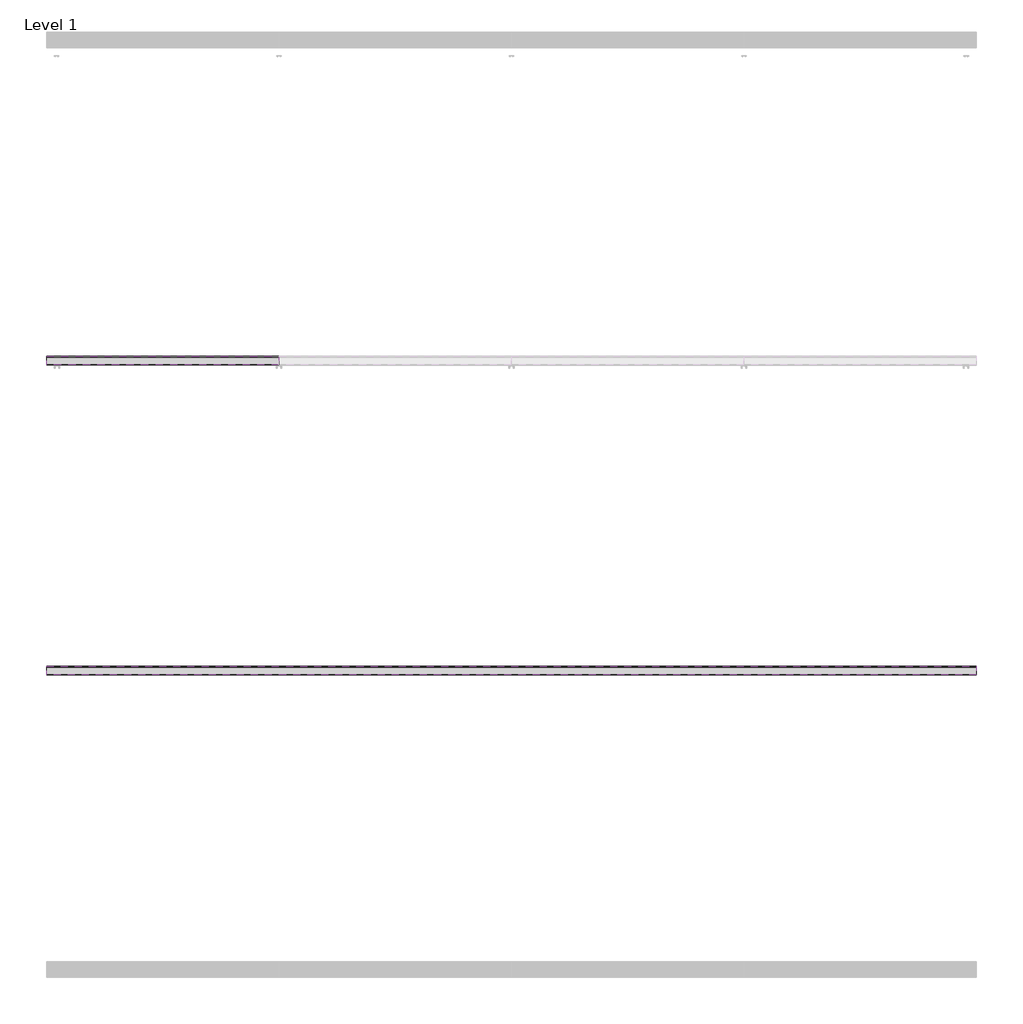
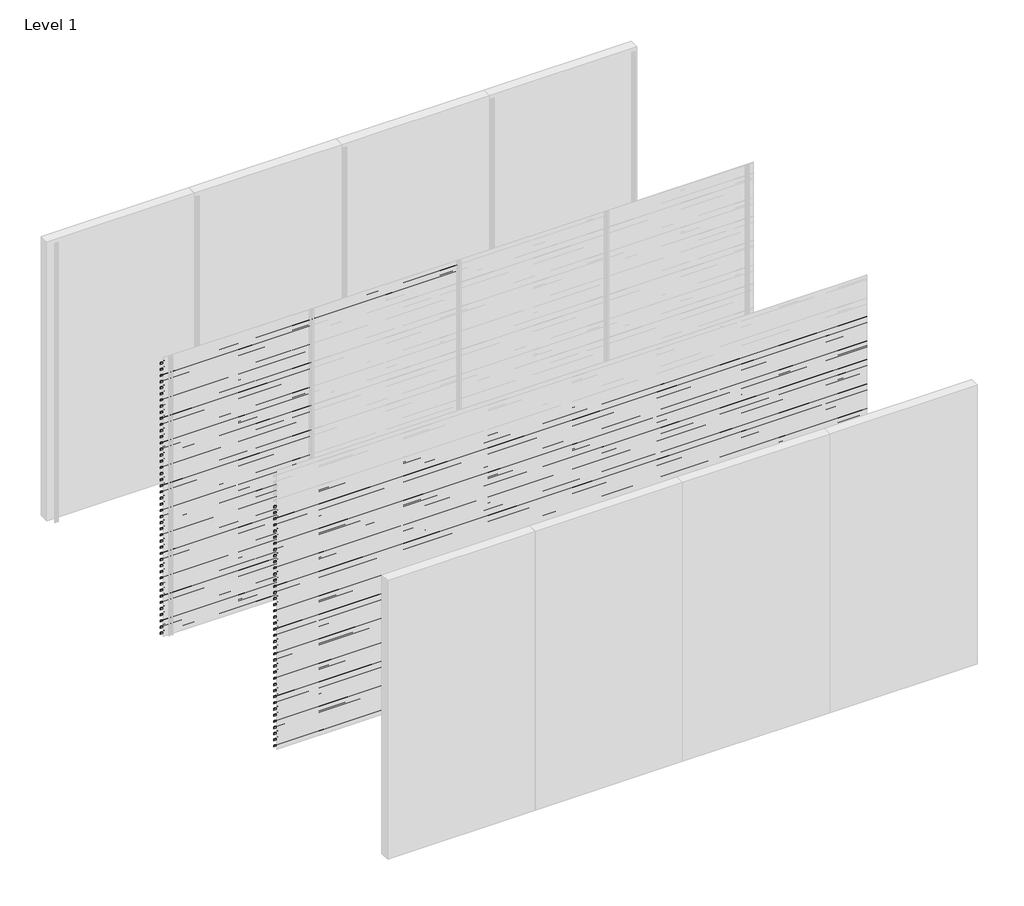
# One storey, part 21 of 25: 87 proxies.
"""IFC4 building model written with IfcOpenShell, lengths in millimetres."""

import ifcopenshell
import ifcopenshell.guid

model = None  # the IFC model being written
_history = None  # IfcOwnerHistory: only IFC2X3 demands one
_inside = {}  # id of a spatial element -> (the spatial element, [elements in it])
_under = {}  # id of a project, library or spatial element -> (it, [spatial elements below it])
_declared = {}  # id of a project -> (the project, [libraries it declares])
_typed = {}  # id of a type object -> (the type object, [elements of that type])
_made_of = {}  # id of a material, layer set ... -> (it, [elements and type objects made of it])


def new_model(schema):
    """Start an empty IFC model of exactly this schema.

    Asked for "IFC4X3", IfcOpenShell would pick the latest addendum, in which some entities
    have other attributes; the version numbers below select the first issue.
    IFC2X3 requires an IfcOwnerHistory on every rooted entity: one is made here for all.
    """
    global model, _history
    if schema == "IFC4X3":
        model = ifcopenshell.file(schema_version=(4, 3, 0, 0))
    else:
        model = ifcopenshell.file(schema=schema)
    _inside.clear()
    _under.clear()
    _declared.clear()
    _typed.clear()
    _made_of.clear()
    _history = None
    if model.schema == "IFC2X3":
        org = make("IfcOrganization", Name="unknown")
        user = make(
            "IfcPersonAndOrganization",
            ThePerson=make("IfcPerson", FamilyName="unknown"),
            TheOrganization=org,
        )
        app = make(
            "IfcApplication",
            ApplicationDeveloper=org,
            Version="unknown",
            ApplicationFullName="unknown",
            ApplicationIdentifier="unknown",
        )
        _history = make(
            "IfcOwnerHistory",
            OwningUser=user,
            OwningApplication=app,
            ChangeAction="ADDED",
            CreationDate=0,
        )
    return model


def make(cls, **values):
    """One entity of the class cls with the attributes given. An attribute that is None is left unset."""
    return model.create_entity(
        cls, **{name: value for name, value in values.items() if value is not None}
    )


def rooted(cls, **values):
    """An entity with a GlobalId (a new one), such as an element, a storey or a relation."""
    return make(cls, GlobalId=ifcopenshell.guid.new(), OwnerHistory=_history, **values)


def si_unit(unit_type, name, prefix=None):
    """IfcSIUnit, for example si_unit("LENGTHUNIT", "METRE", prefix="MILLI")."""
    return make("IfcSIUnit", UnitType=unit_type, Prefix=prefix, Name=name)


def assignment(units):
    """IfcUnitAssignment: the units of a project."""
    return None if units is None else make("IfcUnitAssignment", Units=units)


def point(xyz):
    """IfcCartesianPoint."""
    return None if xyz is None else make("IfcCartesianPoint", Coordinates=xyz)


def direction(xyz):
    """IfcDirection."""
    return None if xyz is None else make("IfcDirection", DirectionRatios=xyz)


def frame(location, z_axis=None, x_axis=None):
    """IfcAxis2Placement3D, a coordinate frame: its origin and axes. An axis left out is left unset."""
    return make(
        "IfcAxis2Placement3D",
        Location=point(location),
        Axis=direction(z_axis),
        RefDirection=direction(x_axis),
    )


def origin():
    """The frame at (0, 0, 0) with its axes left unset."""
    return frame((0.0, 0.0, 0.0))


def place(relative_to, where):
    """IfcLocalPlacement: puts the frame where relative to a parent placement (None: the world)."""
    return make(
        "IfcLocalPlacement", PlacementRelTo=relative_to, RelativePlacement=where
    )


def context(
    kind, dimensions, precision=None, world=None, true_north=None, identifier=None
):
    """IfcGeometricRepresentationContext, for example the 3D "Model" context."""
    return make(
        "IfcGeometricRepresentationContext",
        ContextIdentifier=identifier,
        ContextType=kind,
        CoordinateSpaceDimension=dimensions,
        Precision=precision,
        WorldCoordinateSystem=world,
        TrueNorth=true_north,
    )


def project(units=None, contexts=None):
    """IfcProject with its units and contexts."""
    return rooted(
        "IfcProject",
        Name="project",
        RepresentationContexts=contexts,
        UnitsInContext=assignment(units),
    )


def spatial(cls, under=None, at=None, **own):
    """A site, building, storey or space (cls), placed at a placement, below another one or the project."""
    s = rooted(cls, ObjectPlacement=at, **own)
    if under is not None:
        _under.setdefault(under.id(), (under, []))[1].append(s)
    return s


def polyline(points):
    """IfcPolyline through the points."""
    return make("IfcPolyline", Points=[point(p) for p in points])


def outline(outer, holes=None, kind="AREA"):
    """IfcArbitraryClosedProfileDef: a profile drawn as a closed curve; with holes, ...WithVoids."""
    if holes is None:
        return make("IfcArbitraryClosedProfileDef", ProfileType=kind, OuterCurve=outer)
    return make(
        "IfcArbitraryProfileDefWithVoids",
        ProfileType=kind,
        OuterCurve=outer,
        InnerCurves=holes,
    )


def extrude(swept, where, along, depth):
    """IfcExtrudedAreaSolid: the profile swept, set in the frame where, extruded along a direction by depth."""
    return make(
        "IfcExtrudedAreaSolid",
        SweptArea=swept,
        Position=where,
        ExtrudedDirection=direction(along),
        Depth=depth,
    )


def shape(context_of_items, identifier, shape_type, items):
    """IfcShapeRepresentation: the items that make up one representation, for example the "Body"."""
    return make(
        "IfcShapeRepresentation",
        ContextOfItems=context_of_items,
        RepresentationIdentifier=identifier,
        RepresentationType=shape_type,
        Items=items,
    )


def made_of(thing, what):
    """Note that an element or type object is made of a material, layer set ...; save() writes the relation."""
    if what is not None:
        _made_of.setdefault(what.id(), (what, []))[1].append(thing)
    return thing


def element(
    cls,
    number,
    at=None,
    inside=None,
    cuts=None,
    type_object=None,
    material=None,
    context=None,
    identifier="Body",
    shape_type=None,
    held_by="IfcProductDefinitionShape",
    body=None,
    shapes=None,
    **own,
):
    """One element of the class cls, such as IfcWall. Its Tag is "e" and its number.

    at: its placement. inside: the storey or other place that contains it. cuts: it is an
    opening in that element (IfcRelVoidsElement). A single representation is given by context,
    identifier, shape_type and body (its items); several are given by shapes. held_by: the class
    of the entity that holds the representations. save() writes the other relations.
    """
    e = rooted(cls, Tag="e%d" % number, ObjectPlacement=at, **own)
    if body is not None:
        shapes = [shape(context, identifier, shape_type, body)]
    if shapes is not None:
        e.Representation = make(held_by, Representations=shapes)
    if inside is not None:
        _inside.setdefault(inside.id(), (inside, []))[1].append(e)
    if cuts is not None:
        rooted(
            "IfcRelVoidsElement", RelatingBuildingElement=cuts, RelatedOpeningElement=e
        )
    if type_object is not None:
        _typed.setdefault(type_object.id(), (type_object, []))[1].append(e)
    return made_of(e, material)


def aggregate(whole, parts):
    """IfcRelAggregates: a whole, such as a stair, and the parts it consists of."""
    return rooted("IfcRelAggregates", RelatingObject=whole, RelatedObjects=parts)


def save(model, path):
    """Write the relations noted so far, then the file.

    IfcRelAggregates (storeys below a building ...), IfcRelContainedInSpatialStructure (elements
    in a storey), IfcRelDefinesByType, IfcRelAssociatesMaterial and IfcRelDeclares: one each for
    every whole, place, type object, material and project.
    """
    for whole, parts in _under.values():
        aggregate(whole, parts)
    for where, things in _inside.values():
        rooted(
            "IfcRelContainedInSpatialStructure",
            RelatedElements=things,
            RelatingStructure=where,
        )
    for kind, things in _typed.values():
        rooted("IfcRelDefinesByType", RelatedObjects=things, RelatingType=kind)
    for what, things in _made_of.values():
        rooted("IfcRelAssociatesMaterial", RelatedObjects=things, RelatingMaterial=what)
    for by, libraries in _declared.values():
        rooted("IfcRelDeclares", RelatingContext=by, RelatedDefinitions=libraries)
    model.write(path)


model = new_model("IFC4")

# Units and contexts
model_context = context("Model", 3, world=origin())
ifc_project = project(units=[si_unit("LENGTHUNIT", "METRE", prefix="MILLI")], contexts=[model_context])

# Site, building, storey
site = spatial("IfcSite", under=ifc_project)
building = spatial("IfcBuilding", under=site)
storey = spatial("IfcBuildingStorey", under=building, Name="Level 1", Elevation=0.0)

# Proxies
placement = place(None, origin())
element("IfcBuildingElementProxy", 1, Name="Wall Sweeps", at=placement, inside=storey, context=model_context, shape_type="SweptSolid", body=[
    extrude(outline(polyline([(-5943.0, 2913.5), (-5943.0, 2893.5), (-5944.25, 2894.2216933), (-5944.25, 2912.7872415), (-5998.0, 2950.3158044), (-5998.0, 2970.0), (-5996.75, 2970.0), (-5996.75, 2951.0285629), (-5943.0, 2913.5)])), frame((0.0, 0.0, 0.0), z_axis=(1.0, 0.0, 0.0), x_axis=(0.0, 1.0, 0.0)), (0.0, 0.0, 1.0), 1500.0),
])
element("IfcBuildingElementProxy", 2, Name="Wall Sweeps", at=placement, inside=storey, context=model_context, shape_type="SweptSolid", body=[
    extrude(outline(polyline([(-5943.0, 2847.5), (-5943.0, 2827.5), (-5944.25, 2828.2216933), (-5944.25, 2846.7872415), (-5998.0, 2884.3158044), (-5998.0, 2904.0), (-5996.75, 2904.0), (-5996.75, 2885.0285629), (-5943.0, 2847.5)])), frame((0.0, 0.0, 0.0), z_axis=(1.0, 0.0, 0.0), x_axis=(0.0, 1.0, 0.0)), (0.0, 0.0, 1.0), 1500.0),
])
element("IfcBuildingElementProxy", 3, Name="Wall Sweeps", at=placement, inside=storey, context=model_context, shape_type="SweptSolid", body=[
    extrude(outline(polyline([(-5943.0, 2781.5), (-5943.0, 2761.5), (-5944.25, 2762.2216933), (-5944.25, 2780.7872415), (-5998.0, 2818.3158044), (-5998.0, 2838.0), (-5996.75, 2838.0), (-5996.75, 2819.0285629), (-5943.0, 2781.5)])), frame((0.0, 0.0, 0.0), z_axis=(1.0, 0.0, 0.0), x_axis=(0.0, 1.0, 0.0)), (0.0, 0.0, 1.0), 1500.0),
])
element("IfcBuildingElementProxy", 4, Name="Wall Sweeps", at=placement, inside=storey, context=model_context, shape_type="SweptSolid", body=[
    extrude(outline(polyline([(-5943.0, 2715.5), (-5943.0, 2695.5), (-5944.25, 2696.2216933), (-5944.25, 2714.7872415), (-5998.0, 2752.3158044), (-5998.0, 2772.0), (-5996.75, 2772.0), (-5996.75, 2753.0285629), (-5943.0, 2715.5)])), frame((0.0, 0.0, 0.0), z_axis=(1.0, 0.0, 0.0), x_axis=(0.0, 1.0, 0.0)), (0.0, 0.0, 1.0), 1500.0),
])
element("IfcBuildingElementProxy", 5, Name="Wall Sweeps", at=placement, inside=storey, context=model_context, shape_type="SweptSolid", body=[
    extrude(outline(polyline([(-5943.0, 2649.5), (-5943.0, 2629.5), (-5944.25, 2630.2216933), (-5944.25, 2648.7872415), (-5998.0, 2686.3158044), (-5998.0, 2706.0), (-5996.75, 2706.0), (-5996.75, 2687.0285629), (-5943.0, 2649.5)])), frame((0.0, 0.0, 0.0), z_axis=(1.0, 0.0, 0.0), x_axis=(0.0, 1.0, 0.0)), (0.0, 0.0, 1.0), 1500.0),
])
element("IfcBuildingElementProxy", 6, Name="Wall Sweeps", at=placement, inside=storey, context=model_context, shape_type="SweptSolid", body=[
    extrude(outline(polyline([(-5943.0, 2583.5), (-5943.0, 2563.5), (-5944.25, 2564.2216933), (-5944.25, 2582.7872415), (-5998.0, 2620.3158044), (-5998.0, 2640.0), (-5996.75, 2640.0), (-5996.75, 2621.0285629), (-5943.0, 2583.5)])), frame((0.0, 0.0, 0.0), z_axis=(1.0, 0.0, 0.0), x_axis=(0.0, 1.0, 0.0)), (0.0, 0.0, 1.0), 1500.0),
])
element("IfcBuildingElementProxy", 7, Name="Wall Sweeps", at=placement, inside=storey, context=model_context, shape_type="SweptSolid", body=[
    extrude(outline(polyline([(-5943.0, 2517.5), (-5943.0, 2497.5), (-5944.25, 2498.2216933), (-5944.25, 2516.7872415), (-5998.0, 2554.3158044), (-5998.0, 2574.0), (-5996.75, 2574.0), (-5996.75, 2555.0285629), (-5943.0, 2517.5)])), frame((0.0, 0.0, 0.0), z_axis=(1.0, 0.0, 0.0), x_axis=(0.0, 1.0, 0.0)), (0.0, 0.0, 1.0), 1500.0),
])
element("IfcBuildingElementProxy", 8, Name="Wall Sweeps", at=placement, inside=storey, context=model_context, shape_type="SweptSolid", body=[
    extrude(outline(polyline([(-5943.0, 2451.5), (-5943.0, 2431.5), (-5944.25, 2432.2216933), (-5944.25, 2450.7872415), (-5998.0, 2488.3158044), (-5998.0, 2508.0), (-5996.75, 2508.0), (-5996.75, 2489.0285629), (-5943.0, 2451.5)])), frame((0.0, 0.0, 0.0), z_axis=(1.0, 0.0, 0.0), x_axis=(0.0, 1.0, 0.0)), (0.0, 0.0, 1.0), 1500.0),
])
element("IfcBuildingElementProxy", 9, Name="Wall Sweeps", at=placement, inside=storey, context=model_context, shape_type="SweptSolid", body=[
    extrude(outline(polyline([(-5943.0, 2385.5), (-5943.0, 2365.5), (-5944.25, 2366.2216933), (-5944.25, 2384.7872415), (-5998.0, 2422.3158044), (-5998.0, 2442.0), (-5996.75, 2442.0), (-5996.75, 2423.0285629), (-5943.0, 2385.5)])), frame((0.0, 0.0, 0.0), z_axis=(1.0, 0.0, 0.0), x_axis=(0.0, 1.0, 0.0)), (0.0, 0.0, 1.0), 1500.0),
])
element("IfcBuildingElementProxy", 10, Name="Wall Sweeps", at=placement, inside=storey, context=model_context, shape_type="SweptSolid", body=[
    extrude(outline(polyline([(-5943.0, 2319.5), (-5943.0, 2299.5), (-5944.25, 2300.2216933), (-5944.25, 2318.7872415), (-5998.0, 2356.3158044), (-5998.0, 2376.0), (-5996.75, 2376.0), (-5996.75, 2357.0285629), (-5943.0, 2319.5)])), frame((0.0, 0.0, 0.0), z_axis=(1.0, 0.0, 0.0), x_axis=(0.0, 1.0, 0.0)), (0.0, 0.0, 1.0), 1500.0),
])
element("IfcBuildingElementProxy", 11, Name="Wall Sweeps", at=placement, inside=storey, context=model_context, shape_type="SweptSolid", body=[
    extrude(outline(polyline([(-5943.0, 2253.5), (-5943.0, 2233.5), (-5944.25, 2234.2216933), (-5944.25, 2252.7872415), (-5998.0, 2290.3158044), (-5998.0, 2310.0), (-5996.75, 2310.0), (-5996.75, 2291.0285629), (-5943.0, 2253.5)])), frame((0.0, 0.0, 0.0), z_axis=(1.0, 0.0, 0.0), x_axis=(0.0, 1.0, 0.0)), (0.0, 0.0, 1.0), 1500.0),
])
element("IfcBuildingElementProxy", 12, Name="Wall Sweeps", at=placement, inside=storey, context=model_context, shape_type="SweptSolid", body=[
    extrude(outline(polyline([(-5943.0, 2187.5), (-5943.0, 2167.5), (-5944.25, 2168.2216933), (-5944.25, 2186.7872415), (-5998.0, 2224.3158044), (-5998.0, 2244.0), (-5996.75, 2244.0), (-5996.75, 2225.0285629), (-5943.0, 2187.5)])), frame((0.0, 0.0, 0.0), z_axis=(1.0, 0.0, 0.0), x_axis=(0.0, 1.0, 0.0)), (0.0, 0.0, 1.0), 1500.0),
])
element("IfcBuildingElementProxy", 13, Name="Wall Sweeps", at=placement, inside=storey, context=model_context, shape_type="SweptSolid", body=[
    extrude(outline(polyline([(-5943.0, 2121.5), (-5943.0, 2101.5), (-5944.25, 2102.2216933), (-5944.25, 2120.7872415), (-5998.0, 2158.3158044), (-5998.0, 2178.0), (-5996.75, 2178.0), (-5996.75, 2159.0285629), (-5943.0, 2121.5)])), frame((0.0, 0.0, 0.0), z_axis=(1.0, 0.0, 0.0), x_axis=(0.0, 1.0, 0.0)), (0.0, 0.0, 1.0), 1500.0),
])
element("IfcBuildingElementProxy", 14, Name="Wall Sweeps", at=placement, inside=storey, context=model_context, shape_type="SweptSolid", body=[
    extrude(outline(polyline([(-5943.0, 2055.5), (-5943.0, 2035.5), (-5944.25, 2036.2216933), (-5944.25, 2054.7872415), (-5998.0, 2092.3158044), (-5998.0, 2112.0), (-5996.75, 2112.0), (-5996.75, 2093.0285629), (-5943.0, 2055.5)])), frame((0.0, 0.0, 0.0), z_axis=(1.0, 0.0, 0.0), x_axis=(0.0, 1.0, 0.0)), (0.0, 0.0, 1.0), 1500.0),
])
element("IfcBuildingElementProxy", 15, Name="Wall Sweeps", at=placement, inside=storey, context=model_context, shape_type="SweptSolid", body=[
    extrude(outline(polyline([(-5943.0, 1989.5), (-5943.0, 1969.5), (-5944.25, 1970.2216933), (-5944.25, 1988.7872415), (-5998.0, 2026.3158044), (-5998.0, 2046.0), (-5996.75, 2046.0), (-5996.75, 2027.0285629), (-5943.0, 1989.5)])), frame((0.0, 0.0, 0.0), z_axis=(1.0, 0.0, 0.0), x_axis=(0.0, 1.0, 0.0)), (0.0, 0.0, 1.0), 1500.0),
])
element("IfcBuildingElementProxy", 16, Name="Wall Sweeps", at=placement, inside=storey, context=model_context, shape_type="SweptSolid", body=[
    extrude(outline(polyline([(-5943.0, 1923.5), (-5943.0, 1903.5), (-5944.25, 1904.2216933), (-5944.25, 1922.7872415), (-5998.0, 1960.3158044), (-5998.0, 1980.0), (-5996.75, 1980.0), (-5996.75, 1961.0285629), (-5943.0, 1923.5)])), frame((0.0, 0.0, 0.0), z_axis=(1.0, 0.0, 0.0), x_axis=(0.0, 1.0, 0.0)), (0.0, 0.0, 1.0), 1500.0),
])
element("IfcBuildingElementProxy", 17, Name="Wall Sweeps", at=placement, inside=storey, context=model_context, shape_type="SweptSolid", body=[
    extrude(outline(polyline([(-5943.0, 1857.5), (-5943.0, 1837.5), (-5944.25, 1838.2216933), (-5944.25, 1856.7872415), (-5998.0, 1894.3158044), (-5998.0, 1914.0), (-5996.75, 1914.0), (-5996.75, 1895.0285629), (-5943.0, 1857.5)])), frame((0.0, 0.0, 0.0), z_axis=(1.0, 0.0, 0.0), x_axis=(0.0, 1.0, 0.0)), (0.0, 0.0, 1.0), 1500.0),
])
element("IfcBuildingElementProxy", 18, Name="Wall Sweeps", at=placement, inside=storey, context=model_context, shape_type="SweptSolid", body=[
    extrude(outline(polyline([(-5943.0, 1791.5), (-5943.0, 1771.5), (-5944.25, 1772.2216933), (-5944.25, 1790.7872415), (-5998.0, 1828.3158044), (-5998.0, 1848.0), (-5996.75, 1848.0), (-5996.75, 1829.0285629), (-5943.0, 1791.5)])), frame((0.0, 0.0, 0.0), z_axis=(1.0, 0.0, 0.0), x_axis=(0.0, 1.0, 0.0)), (0.0, 0.0, 1.0), 1500.0),
])
element("IfcBuildingElementProxy", 19, Name="Wall Sweeps", at=placement, inside=storey, context=model_context, shape_type="SweptSolid", body=[
    extrude(outline(polyline([(-5943.0, 1725.5), (-5943.0, 1705.5), (-5944.25, 1706.2216933), (-5944.25, 1724.7872415), (-5998.0, 1762.3158044), (-5998.0, 1782.0), (-5996.75, 1782.0), (-5996.75, 1763.0285629), (-5943.0, 1725.5)])), frame((0.0, 0.0, 0.0), z_axis=(1.0, 0.0, 0.0), x_axis=(0.0, 1.0, 0.0)), (0.0, 0.0, 1.0), 1500.0),
])
element("IfcBuildingElementProxy", 20, Name="Wall Sweeps", at=placement, inside=storey, context=model_context, shape_type="SweptSolid", body=[
    extrude(outline(polyline([(-5943.0, 1659.5), (-5943.0, 1639.5), (-5944.25, 1640.2216933), (-5944.25, 1658.7872415), (-5998.0, 1696.3158044), (-5998.0, 1716.0), (-5996.75, 1716.0), (-5996.75, 1697.0285629), (-5943.0, 1659.5)])), frame((0.0, 0.0, 0.0), z_axis=(1.0, 0.0, 0.0), x_axis=(0.0, 1.0, 0.0)), (0.0, 0.0, 1.0), 1500.0),
])
element("IfcBuildingElementProxy", 21, Name="Wall Sweeps", at=placement, inside=storey, context=model_context, shape_type="SweptSolid", body=[
    extrude(outline(polyline([(-5943.0, 1593.5), (-5943.0, 1573.5), (-5944.25, 1574.2216933), (-5944.25, 1592.7872415), (-5998.0, 1630.3158044), (-5998.0, 1650.0), (-5996.75, 1650.0), (-5996.75, 1631.0285629), (-5943.0, 1593.5)])), frame((0.0, 0.0, 0.0), z_axis=(1.0, 0.0, 0.0), x_axis=(0.0, 1.0, 0.0)), (0.0, 0.0, 1.0), 1500.0),
])
element("IfcBuildingElementProxy", 22, Name="Wall Sweeps", at=placement, inside=storey, context=model_context, shape_type="SweptSolid", body=[
    extrude(outline(polyline([(-5943.0, 1527.5), (-5943.0, 1507.5), (-5944.25, 1508.2216933), (-5944.25, 1526.7872415), (-5998.0, 1564.3158044), (-5998.0, 1584.0), (-5996.75, 1584.0), (-5996.75, 1565.0285629), (-5943.0, 1527.5)])), frame((0.0, 0.0, 0.0), z_axis=(1.0, 0.0, 0.0), x_axis=(0.0, 1.0, 0.0)), (0.0, 0.0, 1.0), 1500.0),
])
element("IfcBuildingElementProxy", 23, Name="Wall Sweeps", at=placement, inside=storey, context=model_context, shape_type="SweptSolid", body=[
    extrude(outline(polyline([(-5943.0, 1461.5), (-5943.0, 1441.5), (-5944.25, 1442.2216933), (-5944.25, 1460.7872415), (-5998.0, 1498.3158044), (-5998.0, 1518.0), (-5996.75, 1518.0), (-5996.75, 1499.0285629), (-5943.0, 1461.5)])), frame((0.0, 0.0, 0.0), z_axis=(1.0, 0.0, 0.0), x_axis=(0.0, 1.0, 0.0)), (0.0, 0.0, 1.0), 1500.0),
])
element("IfcBuildingElementProxy", 24, Name="Wall Sweeps", at=placement, inside=storey, context=model_context, shape_type="SweptSolid", body=[
    extrude(outline(polyline([(-5943.0, 1395.5), (-5943.0, 1375.5), (-5944.25, 1376.2216933), (-5944.25, 1394.7872415), (-5998.0, 1432.3158044), (-5998.0, 1452.0), (-5996.75, 1452.0), (-5996.75, 1433.0285629), (-5943.0, 1395.5)])), frame((0.0, 0.0, 0.0), z_axis=(1.0, 0.0, 0.0), x_axis=(0.0, 1.0, 0.0)), (0.0, 0.0, 1.0), 1500.0),
])
element("IfcBuildingElementProxy", 25, Name="Wall Sweeps", at=placement, inside=storey, context=model_context, shape_type="SweptSolid", body=[
    extrude(outline(polyline([(-5943.0, 1329.5), (-5943.0, 1309.5), (-5944.25, 1310.2216933), (-5944.25, 1328.7872415), (-5998.0, 1366.3158044), (-5998.0, 1386.0), (-5996.75, 1386.0), (-5996.75, 1367.0285629), (-5943.0, 1329.5)])), frame((0.0, 0.0, 0.0), z_axis=(1.0, 0.0, 0.0), x_axis=(0.0, 1.0, 0.0)), (0.0, 0.0, 1.0), 1500.0),
])
element("IfcBuildingElementProxy", 26, Name="Wall Sweeps", at=placement, inside=storey, context=model_context, shape_type="SweptSolid", body=[
    extrude(outline(polyline([(-5943.0, 1263.5), (-5943.0, 1243.5), (-5944.25, 1244.2216933), (-5944.25, 1262.7872415), (-5998.0, 1300.3158044), (-5998.0, 1320.0), (-5996.75, 1320.0), (-5996.75, 1301.0285629), (-5943.0, 1263.5)])), frame((0.0, 0.0, 0.0), z_axis=(1.0, 0.0, 0.0), x_axis=(0.0, 1.0, 0.0)), (0.0, 0.0, 1.0), 1500.0),
])
element("IfcBuildingElementProxy", 27, Name="Wall Sweeps", at=placement, inside=storey, context=model_context, shape_type="SweptSolid", body=[
    extrude(outline(polyline([(-5943.0, 1197.5), (-5943.0, 1177.5), (-5944.25, 1178.2216933), (-5944.25, 1196.7872415), (-5998.0, 1234.3158044), (-5998.0, 1254.0), (-5996.75, 1254.0), (-5996.75, 1235.0285629), (-5943.0, 1197.5)])), frame((0.0, 0.0, 0.0), z_axis=(1.0, 0.0, 0.0), x_axis=(0.0, 1.0, 0.0)), (0.0, 0.0, 1.0), 1500.0),
])
element("IfcBuildingElementProxy", 28, Name="Wall Sweeps", at=placement, inside=storey, context=model_context, shape_type="SweptSolid", body=[
    extrude(outline(polyline([(-5943.0, 1131.5), (-5943.0, 1111.5), (-5944.25, 1112.2216933), (-5944.25, 1130.7872415), (-5998.0, 1168.3158044), (-5998.0, 1188.0), (-5996.75, 1188.0), (-5996.75, 1169.0285629), (-5943.0, 1131.5)])), frame((0.0, 0.0, 0.0), z_axis=(1.0, 0.0, 0.0), x_axis=(0.0, 1.0, 0.0)), (0.0, 0.0, 1.0), 1500.0),
])
element("IfcBuildingElementProxy", 29, Name="Wall Sweeps", at=placement, inside=storey, context=model_context, shape_type="SweptSolid", body=[
    extrude(outline(polyline([(-5943.0, 1065.5), (-5943.0, 1045.5), (-5944.25, 1046.2216933), (-5944.25, 1064.7872415), (-5998.0, 1102.3158044), (-5998.0, 1122.0), (-5996.75, 1122.0), (-5996.75, 1103.0285629), (-5943.0, 1065.5)])), frame((0.0, 0.0, 0.0), z_axis=(1.0, 0.0, 0.0), x_axis=(0.0, 1.0, 0.0)), (0.0, 0.0, 1.0), 1500.0),
])
element("IfcBuildingElementProxy", 30, Name="Wall Sweeps", at=placement, inside=storey, context=model_context, shape_type="SweptSolid", body=[
    extrude(outline(polyline([(-5943.0, 999.5), (-5943.0, 979.5), (-5944.25, 980.2216933), (-5944.25, 998.7872415), (-5998.0, 1036.3158044), (-5998.0, 1056.0), (-5996.75, 1056.0), (-5996.75, 1037.0285629), (-5943.0, 999.5)])), frame((0.0, 0.0, 0.0), z_axis=(1.0, 0.0, 0.0), x_axis=(0.0, 1.0, 0.0)), (0.0, 0.0, 1.0), 1500.0),
])
element("IfcBuildingElementProxy", 31, Name="Wall Sweeps", at=placement, inside=storey, context=model_context, shape_type="SweptSolid", body=[
    extrude(outline(polyline([(-5943.0, 933.5), (-5943.0, 913.5), (-5944.25, 914.2216933), (-5944.25, 932.7872415), (-5998.0, 970.3158044), (-5998.0, 990.0), (-5996.75, 990.0), (-5996.75, 971.0285629), (-5943.0, 933.5)])), frame((0.0, 0.0, 0.0), z_axis=(1.0, 0.0, 0.0), x_axis=(0.0, 1.0, 0.0)), (0.0, 0.0, 1.0), 1500.0),
])
element("IfcBuildingElementProxy", 32, Name="Wall Sweeps", at=placement, inside=storey, context=model_context, shape_type="SweptSolid", body=[
    extrude(outline(polyline([(-5943.0, 867.5), (-5943.0, 847.5), (-5944.25, 848.2216933), (-5944.25, 866.7872415), (-5998.0, 904.3158044), (-5998.0, 924.0), (-5996.75, 924.0), (-5996.75, 905.0285629), (-5943.0, 867.5)])), frame((0.0, 0.0, 0.0), z_axis=(1.0, 0.0, 0.0), x_axis=(0.0, 1.0, 0.0)), (0.0, 0.0, 1.0), 1500.0),
])
element("IfcBuildingElementProxy", 33, Name="Wall Sweeps", at=placement, inside=storey, context=model_context, shape_type="SweptSolid", body=[
    extrude(outline(polyline([(-5943.0, 801.5), (-5943.0, 781.5), (-5944.25, 782.2216933), (-5944.25, 800.7872415), (-5998.0, 838.3158044), (-5998.0, 858.0), (-5996.75, 858.0), (-5996.75, 839.0285629), (-5943.0, 801.5)])), frame((0.0, 0.0, 0.0), z_axis=(1.0, 0.0, 0.0), x_axis=(0.0, 1.0, 0.0)), (0.0, 0.0, 1.0), 1500.0),
])
element("IfcBuildingElementProxy", 34, Name="Wall Sweeps", at=placement, inside=storey, context=model_context, shape_type="SweptSolid", body=[
    extrude(outline(polyline([(-5943.0, 735.5), (-5943.0, 715.5), (-5944.25, 716.2216933), (-5944.25, 734.7872415), (-5998.0, 772.3158044), (-5998.0, 792.0), (-5996.75, 792.0), (-5996.75, 773.0285629), (-5943.0, 735.5)])), frame((0.0, 0.0, 0.0), z_axis=(1.0, 0.0, 0.0), x_axis=(0.0, 1.0, 0.0)), (0.0, 0.0, 1.0), 1500.0),
])
element("IfcBuildingElementProxy", 35, Name="Wall Sweeps", at=placement, inside=storey, context=model_context, shape_type="SweptSolid", body=[
    extrude(outline(polyline([(-5943.0, 669.5), (-5943.0, 649.5), (-5944.25, 650.2216933), (-5944.25, 668.7872415), (-5998.0, 706.3158044), (-5998.0, 726.0), (-5996.75, 726.0), (-5996.75, 707.0285629), (-5943.0, 669.5)])), frame((0.0, 0.0, 0.0), z_axis=(1.0, 0.0, 0.0), x_axis=(0.0, 1.0, 0.0)), (0.0, 0.0, 1.0), 1500.0),
])
element("IfcBuildingElementProxy", 36, Name="Wall Sweeps", at=placement, inside=storey, context=model_context, shape_type="SweptSolid", body=[
    extrude(outline(polyline([(-5943.0, 603.5), (-5943.0, 583.5), (-5944.25, 584.2216933), (-5944.25, 602.7872415), (-5998.0, 640.3158044), (-5998.0, 660.0), (-5996.75, 660.0), (-5996.75, 641.0285629), (-5943.0, 603.5)])), frame((0.0, 0.0, 0.0), z_axis=(1.0, 0.0, 0.0), x_axis=(0.0, 1.0, 0.0)), (0.0, 0.0, 1.0), 1500.0),
])
element("IfcBuildingElementProxy", 37, Name="Wall Sweeps", at=placement, inside=storey, context=model_context, shape_type="SweptSolid", body=[
    extrude(outline(polyline([(-5943.0, 537.5), (-5943.0, 517.5), (-5944.25, 518.2216933), (-5944.25, 536.7872415), (-5998.0, 574.3158044), (-5998.0, 594.0), (-5996.75, 594.0), (-5996.75, 575.0285629), (-5943.0, 537.5)])), frame((0.0, 0.0, 0.0), z_axis=(1.0, 0.0, 0.0), x_axis=(0.0, 1.0, 0.0)), (0.0, 0.0, 1.0), 1500.0),
])
element("IfcBuildingElementProxy", 38, Name="Wall Sweeps", at=placement, inside=storey, context=model_context, shape_type="SweptSolid", body=[
    extrude(outline(polyline([(-5943.0, 471.5), (-5943.0, 451.5), (-5944.25, 452.2216933), (-5944.25, 470.7872415), (-5998.0, 508.3158044), (-5998.0, 528.0), (-5996.75, 528.0), (-5996.75, 509.0285629), (-5943.0, 471.5)])), frame((0.0, 0.0, 0.0), z_axis=(1.0, 0.0, 0.0), x_axis=(0.0, 1.0, 0.0)), (0.0, 0.0, 1.0), 1500.0),
])
element("IfcBuildingElementProxy", 39, Name="Wall Sweeps", at=placement, inside=storey, context=model_context, shape_type="SweptSolid", body=[
    extrude(outline(polyline([(-5943.0, 405.5), (-5943.0, 385.5), (-5944.25, 386.2216933), (-5944.25, 404.7872415), (-5998.0, 442.3158044), (-5998.0, 462.0), (-5996.75, 462.0), (-5996.75, 443.0285629), (-5943.0, 405.5)])), frame((0.0, 0.0, 0.0), z_axis=(1.0, 0.0, 0.0), x_axis=(0.0, 1.0, 0.0)), (0.0, 0.0, 1.0), 1500.0),
])
element("IfcBuildingElementProxy", 40, Name="Wall Sweeps", at=placement, inside=storey, context=model_context, shape_type="SweptSolid", body=[
    extrude(outline(polyline([(-5943.0, 339.5), (-5943.0, 319.5), (-5944.25, 320.2216933), (-5944.25, 338.7872415), (-5998.0, 376.3158044), (-5998.0, 396.0), (-5996.75, 396.0), (-5996.75, 377.0285629), (-5943.0, 339.5)])), frame((0.0, 0.0, 0.0), z_axis=(1.0, 0.0, 0.0), x_axis=(0.0, 1.0, 0.0)), (0.0, 0.0, 1.0), 1500.0),
])
element("IfcBuildingElementProxy", 41, Name="Wall Sweeps", at=placement, inside=storey, context=model_context, shape_type="SweptSolid", body=[
    extrude(outline(polyline([(-5943.0, 273.5), (-5943.0, 253.5), (-5944.25, 254.2216933), (-5944.25, 272.7872415), (-5998.0, 310.3158044), (-5998.0, 330.0), (-5996.75, 330.0), (-5996.75, 311.0285629), (-5943.0, 273.5)])), frame((0.0, 0.0, 0.0), z_axis=(1.0, 0.0, 0.0), x_axis=(0.0, 1.0, 0.0)), (0.0, 0.0, 1.0), 1500.0),
])
element("IfcBuildingElementProxy", 42, Name="Wall Sweeps", at=placement, inside=storey, context=model_context, shape_type="SweptSolid", body=[
    extrude(outline(polyline([(-5943.0, 207.5), (-5943.0, 187.5), (-5944.25, 188.2216933), (-5944.25, 206.7872415), (-5998.0, 244.3158044), (-5998.0, 264.0), (-5996.75, 264.0), (-5996.75, 245.0285629), (-5943.0, 207.5)])), frame((0.0, 0.0, 0.0), z_axis=(1.0, 0.0, 0.0), x_axis=(0.0, 1.0, 0.0)), (0.0, 0.0, 1.0), 1500.0),
])
element("IfcBuildingElementProxy", 43, Name="Wall Sweeps", at=placement, inside=storey, context=model_context, shape_type="SweptSolid", body=[
    extrude(outline(polyline([(-5943.0, 141.5), (-5943.0, 121.5), (-5944.25, 122.2216933), (-5944.25, 140.7872415), (-5998.0, 178.3158044), (-5998.0, 198.0), (-5996.75, 198.0), (-5996.75, 179.0285629), (-5943.0, 141.5)])), frame((0.0, 0.0, 0.0), z_axis=(1.0, 0.0, 0.0), x_axis=(0.0, 1.0, 0.0)), (0.0, 0.0, 1.0), 1500.0),
])
element("IfcBuildingElementProxy", 44, Name="Wall Sweeps", at=placement, inside=storey, context=model_context, shape_type="SweptSolid", body=[
    extrude(outline(polyline([(-5943.0, 75.5), (-5943.0, 55.5), (-5944.25, 56.2216933), (-5944.25, 74.7872415), (-5998.0, 112.3158044), (-5998.0, 132.0), (-5996.75, 132.0), (-5996.75, 113.0285629), (-5943.0, 75.5)])), frame((0.0, 0.0, 0.0), z_axis=(1.0, 0.0, 0.0), x_axis=(0.0, 1.0, 0.0)), (0.0, 0.0, 1.0), 1500.0),
])
element("IfcBuildingElementProxy", 45, Name="Wall Sweeps", at=placement, inside=storey, context=model_context, shape_type="SweptSolid", body=[
    extrude(outline(polyline([(-5943.0, 9.5), (-5943.0, -10.5), (-5944.25, -9.7783067), (-5944.25, 8.7872415), (-5998.0, 46.3158044), (-5998.0, 66.0), (-5996.75, 66.0), (-5996.75, 47.0285629), (-5943.0, 9.5)])), frame((0.0, 0.0, 0.0), z_axis=(1.0, 0.0, 0.0), x_axis=(0.0, 1.0, 0.0)), (0.0, 0.0, 1.0), 1500.0),
])
element("IfcBuildingElementProxy", 46, Name="Wall Sweeps", at=placement, inside=storey, context=model_context, shape_type="SweptSolid", body=[
    extrude(outline(polyline([(-5943.0, 2913.5), (-5943.0, 2893.5), (-5944.25, 2894.2216933), (-5944.25, 2912.7872415), (-5998.0, 2950.3158044), (-5998.0, 2970.0), (-5996.75, 2970.0), (-5996.75, 2951.0285629), (-5943.0, 2913.5)])), frame((1500.0, 0.0, 0.0), z_axis=(1.0, 0.0, 0.0), x_axis=(0.0, 1.0, 0.0)), (0.0, 0.0, 1.0), 1500.0),
])
element("IfcBuildingElementProxy", 47, Name="Wall Sweeps", at=placement, inside=storey, context=model_context, shape_type="SweptSolid", body=[
    extrude(outline(polyline([(-5943.0, 2847.5), (-5943.0, 2827.5), (-5944.25, 2828.2216933), (-5944.25, 2846.7872415), (-5998.0, 2884.3158044), (-5998.0, 2904.0), (-5996.75, 2904.0), (-5996.75, 2885.0285629), (-5943.0, 2847.5)])), frame((1500.0, 0.0, 0.0), z_axis=(1.0, 0.0, 0.0), x_axis=(0.0, 1.0, 0.0)), (0.0, 0.0, 1.0), 1500.0),
])
element("IfcBuildingElementProxy", 48, Name="Wall Sweeps", at=placement, inside=storey, context=model_context, shape_type="SweptSolid", body=[
    extrude(outline(polyline([(-7943.0, 2583.5), (-7943.0, 2563.5), (-7944.25, 2564.2216933), (-7944.25, 2582.7872415), (-7998.0, 2620.3158044), (-7998.0, 2640.0), (-7996.75, 2640.0), (-7996.75, 2621.0285629), (-7943.0, 2583.5)])), frame((0.0, 0.0, 0.0), z_axis=(1.0, 0.0, 0.0), x_axis=(0.0, 1.0, 0.0)), (0.0, 0.0, 1.0), 6000.0),
])
element("IfcBuildingElementProxy", 49, Name="Wall Sweeps", at=placement, inside=storey, context=model_context, shape_type="SweptSolid", body=[
    extrude(outline(polyline([(-7943.0, 2517.5), (-7943.0, 2497.5), (-7944.25, 2498.2216933), (-7944.25, 2516.7872415), (-7998.0, 2554.3158044), (-7998.0, 2574.0), (-7996.75, 2574.0), (-7996.75, 2555.0285629), (-7943.0, 2517.5)])), frame((0.0, 0.0, 0.0), z_axis=(1.0, 0.0, 0.0), x_axis=(0.0, 1.0, 0.0)), (0.0, 0.0, 1.0), 6000.0),
])
element("IfcBuildingElementProxy", 50, Name="Wall Sweeps", at=placement, inside=storey, context=model_context, shape_type="SweptSolid", body=[
    extrude(outline(polyline([(-7943.0, 2451.5), (-7943.0, 2431.5), (-7944.25, 2432.2216933), (-7944.25, 2450.7872415), (-7998.0, 2488.3158044), (-7998.0, 2508.0), (-7996.75, 2508.0), (-7996.75, 2489.0285629), (-7943.0, 2451.5)])), frame((0.0, 0.0, 0.0), z_axis=(1.0, 0.0, 0.0), x_axis=(0.0, 1.0, 0.0)), (0.0, 0.0, 1.0), 6000.0),
])
element("IfcBuildingElementProxy", 51, Name="Wall Sweeps", at=placement, inside=storey, context=model_context, shape_type="SweptSolid", body=[
    extrude(outline(polyline([(-7943.0, 2385.5), (-7943.0, 2365.5), (-7944.25, 2366.2216933), (-7944.25, 2384.7872415), (-7998.0, 2422.3158044), (-7998.0, 2442.0), (-7996.75, 2442.0), (-7996.75, 2423.0285629), (-7943.0, 2385.5)])), frame((0.0, 0.0, 0.0), z_axis=(1.0, 0.0, 0.0), x_axis=(0.0, 1.0, 0.0)), (0.0, 0.0, 1.0), 6000.0),
])
element("IfcBuildingElementProxy", 52, Name="Wall Sweeps", at=placement, inside=storey, context=model_context, shape_type="SweptSolid", body=[
    extrude(outline(polyline([(-7943.0, 2319.5), (-7943.0, 2299.5), (-7944.25, 2300.2216933), (-7944.25, 2318.7872415), (-7998.0, 2356.3158044), (-7998.0, 2376.0), (-7996.75, 2376.0), (-7996.75, 2357.0285629), (-7943.0, 2319.5)])), frame((0.0, 0.0, 0.0), z_axis=(1.0, 0.0, 0.0), x_axis=(0.0, 1.0, 0.0)), (0.0, 0.0, 1.0), 6000.0),
])
element("IfcBuildingElementProxy", 53, Name="Wall Sweeps", at=placement, inside=storey, context=model_context, shape_type="SweptSolid", body=[
    extrude(outline(polyline([(-7943.0, 2253.5), (-7943.0, 2233.5), (-7944.25, 2234.2216933), (-7944.25, 2252.7872415), (-7998.0, 2290.3158044), (-7998.0, 2310.0), (-7996.75, 2310.0), (-7996.75, 2291.0285629), (-7943.0, 2253.5)])), frame((0.0, 0.0, 0.0), z_axis=(1.0, 0.0, 0.0), x_axis=(0.0, 1.0, 0.0)), (0.0, 0.0, 1.0), 6000.0),
])
element("IfcBuildingElementProxy", 54, Name="Wall Sweeps", at=placement, inside=storey, context=model_context, shape_type="SweptSolid", body=[
    extrude(outline(polyline([(-7943.0, 2187.5), (-7943.0, 2167.5), (-7944.25, 2168.2216933), (-7944.25, 2186.7872415), (-7998.0, 2224.3158044), (-7998.0, 2244.0), (-7996.75, 2244.0), (-7996.75, 2225.0285629), (-7943.0, 2187.5)])), frame((0.0, 0.0, 0.0), z_axis=(1.0, 0.0, 0.0), x_axis=(0.0, 1.0, 0.0)), (0.0, 0.0, 1.0), 6000.0),
])
element("IfcBuildingElementProxy", 55, Name="Wall Sweeps", at=placement, inside=storey, context=model_context, shape_type="SweptSolid", body=[
    extrude(outline(polyline([(-7943.0, 2121.5), (-7943.0, 2101.5), (-7944.25, 2102.2216933), (-7944.25, 2120.7872415), (-7998.0, 2158.3158044), (-7998.0, 2178.0), (-7996.75, 2178.0), (-7996.75, 2159.0285629), (-7943.0, 2121.5)])), frame((0.0, 0.0, 0.0), z_axis=(1.0, 0.0, 0.0), x_axis=(0.0, 1.0, 0.0)), (0.0, 0.0, 1.0), 6000.0),
])
element("IfcBuildingElementProxy", 56, Name="Wall Sweeps", at=placement, inside=storey, context=model_context, shape_type="SweptSolid", body=[
    extrude(outline(polyline([(-7943.0, 2055.5), (-7943.0, 2035.5), (-7944.25, 2036.2216933), (-7944.25, 2054.7872415), (-7998.0, 2092.3158044), (-7998.0, 2112.0), (-7996.75, 2112.0), (-7996.75, 2093.0285629), (-7943.0, 2055.5)])), frame((0.0, 0.0, 0.0), z_axis=(1.0, 0.0, 0.0), x_axis=(0.0, 1.0, 0.0)), (0.0, 0.0, 1.0), 6000.0),
])
element("IfcBuildingElementProxy", 57, Name="Wall Sweeps", at=placement, inside=storey, context=model_context, shape_type="SweptSolid", body=[
    extrude(outline(polyline([(-7943.0, 1989.5), (-7943.0, 1969.5), (-7944.25, 1970.2216933), (-7944.25, 1988.7872415), (-7998.0, 2026.3158044), (-7998.0, 2046.0), (-7996.75, 2046.0), (-7996.75, 2027.0285629), (-7943.0, 1989.5)])), frame((0.0, 0.0, 0.0), z_axis=(1.0, 0.0, 0.0), x_axis=(0.0, 1.0, 0.0)), (0.0, 0.0, 1.0), 6000.0),
])
element("IfcBuildingElementProxy", 58, Name="Wall Sweeps", at=placement, inside=storey, context=model_context, shape_type="SweptSolid", body=[
    extrude(outline(polyline([(-7943.0, 1923.5), (-7943.0, 1903.5), (-7944.25, 1904.2216933), (-7944.25, 1922.7872415), (-7998.0, 1960.3158044), (-7998.0, 1980.0), (-7996.75, 1980.0), (-7996.75, 1961.0285629), (-7943.0, 1923.5)])), frame((0.0, 0.0, 0.0), z_axis=(1.0, 0.0, 0.0), x_axis=(0.0, 1.0, 0.0)), (0.0, 0.0, 1.0), 6000.0),
])
element("IfcBuildingElementProxy", 59, Name="Wall Sweeps", at=placement, inside=storey, context=model_context, shape_type="SweptSolid", body=[
    extrude(outline(polyline([(-7943.0, 1857.5), (-7943.0, 1837.5), (-7944.25, 1838.2216933), (-7944.25, 1856.7872415), (-7998.0, 1894.3158044), (-7998.0, 1914.0), (-7996.75, 1914.0), (-7996.75, 1895.0285629), (-7943.0, 1857.5)])), frame((0.0, 0.0, 0.0), z_axis=(1.0, 0.0, 0.0), x_axis=(0.0, 1.0, 0.0)), (0.0, 0.0, 1.0), 6000.0),
])
element("IfcBuildingElementProxy", 60, Name="Wall Sweeps", at=placement, inside=storey, context=model_context, shape_type="SweptSolid", body=[
    extrude(outline(polyline([(-7943.0, 1791.5), (-7943.0, 1771.5), (-7944.25, 1772.2216933), (-7944.25, 1790.7872415), (-7998.0, 1828.3158044), (-7998.0, 1848.0), (-7996.75, 1848.0), (-7996.75, 1829.0285629), (-7943.0, 1791.5)])), frame((0.0, 0.0, 0.0), z_axis=(1.0, 0.0, 0.0), x_axis=(0.0, 1.0, 0.0)), (0.0, 0.0, 1.0), 6000.0),
])
element("IfcBuildingElementProxy", 61, Name="Wall Sweeps", at=placement, inside=storey, context=model_context, shape_type="SweptSolid", body=[
    extrude(outline(polyline([(-7943.0, 1725.5), (-7943.0, 1705.5), (-7944.25, 1706.2216933), (-7944.25, 1724.7872415), (-7998.0, 1762.3158044), (-7998.0, 1782.0), (-7996.75, 1782.0), (-7996.75, 1763.0285629), (-7943.0, 1725.5)])), frame((0.0, 0.0, 0.0), z_axis=(1.0, 0.0, 0.0), x_axis=(0.0, 1.0, 0.0)), (0.0, 0.0, 1.0), 6000.0),
])
element("IfcBuildingElementProxy", 62, Name="Wall Sweeps", at=placement, inside=storey, context=model_context, shape_type="SweptSolid", body=[
    extrude(outline(polyline([(-7943.0, 1659.5), (-7943.0, 1639.5), (-7944.25, 1640.2216933), (-7944.25, 1658.7872415), (-7998.0, 1696.3158044), (-7998.0, 1716.0), (-7996.75, 1716.0), (-7996.75, 1697.0285629), (-7943.0, 1659.5)])), frame((0.0, 0.0, 0.0), z_axis=(1.0, 0.0, 0.0), x_axis=(0.0, 1.0, 0.0)), (0.0, 0.0, 1.0), 6000.0),
])
element("IfcBuildingElementProxy", 63, Name="Wall Sweeps", at=placement, inside=storey, context=model_context, shape_type="SweptSolid", body=[
    extrude(outline(polyline([(-7943.0, 1593.5), (-7943.0, 1573.5), (-7944.25, 1574.2216933), (-7944.25, 1592.7872415), (-7998.0, 1630.3158044), (-7998.0, 1650.0), (-7996.75, 1650.0), (-7996.75, 1631.0285629), (-7943.0, 1593.5)])), frame((0.0, 0.0, 0.0), z_axis=(1.0, 0.0, 0.0), x_axis=(0.0, 1.0, 0.0)), (0.0, 0.0, 1.0), 6000.0),
])
element("IfcBuildingElementProxy", 64, Name="Wall Sweeps", at=placement, inside=storey, context=model_context, shape_type="SweptSolid", body=[
    extrude(outline(polyline([(-7943.0, 1527.5), (-7943.0, 1507.5), (-7944.25, 1508.2216933), (-7944.25, 1526.7872415), (-7998.0, 1564.3158044), (-7998.0, 1584.0), (-7996.75, 1584.0), (-7996.75, 1565.0285629), (-7943.0, 1527.5)])), frame((0.0, 0.0, 0.0), z_axis=(1.0, 0.0, 0.0), x_axis=(0.0, 1.0, 0.0)), (0.0, 0.0, 1.0), 6000.0),
])
element("IfcBuildingElementProxy", 65, Name="Wall Sweeps", at=placement, inside=storey, context=model_context, shape_type="SweptSolid", body=[
    extrude(outline(polyline([(-7943.0, 1461.5), (-7943.0, 1441.5), (-7944.25, 1442.2216933), (-7944.25, 1460.7872415), (-7998.0, 1498.3158044), (-7998.0, 1518.0), (-7996.75, 1518.0), (-7996.75, 1499.0285629), (-7943.0, 1461.5)])), frame((0.0, 0.0, 0.0), z_axis=(1.0, 0.0, 0.0), x_axis=(0.0, 1.0, 0.0)), (0.0, 0.0, 1.0), 6000.0),
])
element("IfcBuildingElementProxy", 66, Name="Wall Sweeps", at=placement, inside=storey, context=model_context, shape_type="SweptSolid", body=[
    extrude(outline(polyline([(-7943.0, 1395.5), (-7943.0, 1375.5), (-7944.25, 1376.2216933), (-7944.25, 1394.7872415), (-7998.0, 1432.3158044), (-7998.0, 1452.0), (-7996.75, 1452.0), (-7996.75, 1433.0285629), (-7943.0, 1395.5)])), frame((0.0, 0.0, 0.0), z_axis=(1.0, 0.0, 0.0), x_axis=(0.0, 1.0, 0.0)), (0.0, 0.0, 1.0), 6000.0),
])
element("IfcBuildingElementProxy", 67, Name="Wall Sweeps", at=placement, inside=storey, context=model_context, shape_type="SweptSolid", body=[
    extrude(outline(polyline([(-7943.0, 1329.5), (-7943.0, 1309.5), (-7944.25, 1310.2216933), (-7944.25, 1328.7872415), (-7998.0, 1366.3158044), (-7998.0, 1386.0), (-7996.75, 1386.0), (-7996.75, 1367.0285629), (-7943.0, 1329.5)])), frame((0.0, 0.0, 0.0), z_axis=(1.0, 0.0, 0.0), x_axis=(0.0, 1.0, 0.0)), (0.0, 0.0, 1.0), 6000.0),
])
element("IfcBuildingElementProxy", 68, Name="Wall Sweeps", at=placement, inside=storey, context=model_context, shape_type="SweptSolid", body=[
    extrude(outline(polyline([(-7943.0, 1263.5), (-7943.0, 1243.5), (-7944.25, 1244.2216933), (-7944.25, 1262.7872415), (-7998.0, 1300.3158044), (-7998.0, 1320.0), (-7996.75, 1320.0), (-7996.75, 1301.0285629), (-7943.0, 1263.5)])), frame((0.0, 0.0, 0.0), z_axis=(1.0, 0.0, 0.0), x_axis=(0.0, 1.0, 0.0)), (0.0, 0.0, 1.0), 6000.0),
])
element("IfcBuildingElementProxy", 69, Name="Wall Sweeps", at=placement, inside=storey, context=model_context, shape_type="SweptSolid", body=[
    extrude(outline(polyline([(-7943.0, 1197.5), (-7943.0, 1177.5), (-7944.25, 1178.2216933), (-7944.25, 1196.7872415), (-7998.0, 1234.3158044), (-7998.0, 1254.0), (-7996.75, 1254.0), (-7996.75, 1235.0285629), (-7943.0, 1197.5)])), frame((0.0, 0.0, 0.0), z_axis=(1.0, 0.0, 0.0), x_axis=(0.0, 1.0, 0.0)), (0.0, 0.0, 1.0), 6000.0),
])
element("IfcBuildingElementProxy", 70, Name="Wall Sweeps", at=placement, inside=storey, context=model_context, shape_type="SweptSolid", body=[
    extrude(outline(polyline([(-7943.0, 1131.5), (-7943.0, 1111.5), (-7944.25, 1112.2216933), (-7944.25, 1130.7872415), (-7998.0, 1168.3158044), (-7998.0, 1188.0), (-7996.75, 1188.0), (-7996.75, 1169.0285629), (-7943.0, 1131.5)])), frame((0.0, 0.0, 0.0), z_axis=(1.0, 0.0, 0.0), x_axis=(0.0, 1.0, 0.0)), (0.0, 0.0, 1.0), 6000.0),
])
element("IfcBuildingElementProxy", 71, Name="Wall Sweeps", at=placement, inside=storey, context=model_context, shape_type="SweptSolid", body=[
    extrude(outline(polyline([(-7943.0, 1065.5), (-7943.0, 1045.5), (-7944.25, 1046.2216933), (-7944.25, 1064.7872415), (-7998.0, 1102.3158044), (-7998.0, 1122.0), (-7996.75, 1122.0), (-7996.75, 1103.0285629), (-7943.0, 1065.5)])), frame((0.0, 0.0, 0.0), z_axis=(1.0, 0.0, 0.0), x_axis=(0.0, 1.0, 0.0)), (0.0, 0.0, 1.0), 6000.0),
])
element("IfcBuildingElementProxy", 72, Name="Wall Sweeps", at=placement, inside=storey, context=model_context, shape_type="SweptSolid", body=[
    extrude(outline(polyline([(-7943.0, 999.5), (-7943.0, 979.5), (-7944.25, 980.2216933), (-7944.25, 998.7872415), (-7998.0, 1036.3158044), (-7998.0, 1056.0), (-7996.75, 1056.0), (-7996.75, 1037.0285629), (-7943.0, 999.5)])), frame((0.0, 0.0, 0.0), z_axis=(1.0, 0.0, 0.0), x_axis=(0.0, 1.0, 0.0)), (0.0, 0.0, 1.0), 6000.0),
])
element("IfcBuildingElementProxy", 73, Name="Wall Sweeps", at=placement, inside=storey, context=model_context, shape_type="SweptSolid", body=[
    extrude(outline(polyline([(-7943.0, 933.5), (-7943.0, 913.5), (-7944.25, 914.2216933), (-7944.25, 932.7872415), (-7998.0, 970.3158044), (-7998.0, 990.0), (-7996.75, 990.0), (-7996.75, 971.0285629), (-7943.0, 933.5)])), frame((0.0, 0.0, 0.0), z_axis=(1.0, 0.0, 0.0), x_axis=(0.0, 1.0, 0.0)), (0.0, 0.0, 1.0), 6000.0),
])
element("IfcBuildingElementProxy", 74, Name="Wall Sweeps", at=placement, inside=storey, context=model_context, shape_type="SweptSolid", body=[
    extrude(outline(polyline([(-7943.0, 867.5), (-7943.0, 847.5), (-7944.25, 848.2216933), (-7944.25, 866.7872415), (-7998.0, 904.3158044), (-7998.0, 924.0), (-7996.75, 924.0), (-7996.75, 905.0285629), (-7943.0, 867.5)])), frame((0.0, 0.0, 0.0), z_axis=(1.0, 0.0, 0.0), x_axis=(0.0, 1.0, 0.0)), (0.0, 0.0, 1.0), 6000.0),
])
element("IfcBuildingElementProxy", 75, Name="Wall Sweeps", at=placement, inside=storey, context=model_context, shape_type="SweptSolid", body=[
    extrude(outline(polyline([(-7943.0, 801.5), (-7943.0, 781.5), (-7944.25, 782.2216933), (-7944.25, 800.7872415), (-7998.0, 838.3158044), (-7998.0, 858.0), (-7996.75, 858.0), (-7996.75, 839.0285629), (-7943.0, 801.5)])), frame((0.0, 0.0, 0.0), z_axis=(1.0, 0.0, 0.0), x_axis=(0.0, 1.0, 0.0)), (0.0, 0.0, 1.0), 6000.0),
])
element("IfcBuildingElementProxy", 76, Name="Wall Sweeps", at=placement, inside=storey, context=model_context, shape_type="SweptSolid", body=[
    extrude(outline(polyline([(-7943.0, 735.5), (-7943.0, 715.5), (-7944.25, 716.2216933), (-7944.25, 734.7872415), (-7998.0, 772.3158044), (-7998.0, 792.0), (-7996.75, 792.0), (-7996.75, 773.0285629), (-7943.0, 735.5)])), frame((0.0, 0.0, 0.0), z_axis=(1.0, 0.0, 0.0), x_axis=(0.0, 1.0, 0.0)), (0.0, 0.0, 1.0), 6000.0),
])
element("IfcBuildingElementProxy", 77, Name="Wall Sweeps", at=placement, inside=storey, context=model_context, shape_type="SweptSolid", body=[
    extrude(outline(polyline([(-7943.0, 669.5), (-7943.0, 649.5), (-7944.25, 650.2216933), (-7944.25, 668.7872415), (-7998.0, 706.3158044), (-7998.0, 726.0), (-7996.75, 726.0), (-7996.75, 707.0285629), (-7943.0, 669.5)])), frame((0.0, 0.0, 0.0), z_axis=(1.0, 0.0, 0.0), x_axis=(0.0, 1.0, 0.0)), (0.0, 0.0, 1.0), 6000.0),
])
element("IfcBuildingElementProxy", 78, Name="Wall Sweeps", at=placement, inside=storey, context=model_context, shape_type="SweptSolid", body=[
    extrude(outline(polyline([(-7943.0, 603.5), (-7943.0, 583.5), (-7944.25, 584.2216933), (-7944.25, 602.7872415), (-7998.0, 640.3158044), (-7998.0, 660.0), (-7996.75, 660.0), (-7996.75, 641.0285629), (-7943.0, 603.5)])), frame((0.0, 0.0, 0.0), z_axis=(1.0, 0.0, 0.0), x_axis=(0.0, 1.0, 0.0)), (0.0, 0.0, 1.0), 6000.0),
])
element("IfcBuildingElementProxy", 79, Name="Wall Sweeps", at=placement, inside=storey, context=model_context, shape_type="SweptSolid", body=[
    extrude(outline(polyline([(-7943.0, 537.5), (-7943.0, 517.5), (-7944.25, 518.2216933), (-7944.25, 536.7872415), (-7998.0, 574.3158044), (-7998.0, 594.0), (-7996.75, 594.0), (-7996.75, 575.0285629), (-7943.0, 537.5)])), frame((0.0, 0.0, 0.0), z_axis=(1.0, 0.0, 0.0), x_axis=(0.0, 1.0, 0.0)), (0.0, 0.0, 1.0), 6000.0),
])
element("IfcBuildingElementProxy", 80, Name="Wall Sweeps", at=placement, inside=storey, context=model_context, shape_type="SweptSolid", body=[
    extrude(outline(polyline([(-7943.0, 471.5), (-7943.0, 451.5), (-7944.25, 452.2216933), (-7944.25, 470.7872415), (-7998.0, 508.3158044), (-7998.0, 528.0), (-7996.75, 528.0), (-7996.75, 509.0285629), (-7943.0, 471.5)])), frame((0.0, 0.0, 0.0), z_axis=(1.0, 0.0, 0.0), x_axis=(0.0, 1.0, 0.0)), (0.0, 0.0, 1.0), 6000.0),
])
element("IfcBuildingElementProxy", 81, Name="Wall Sweeps", at=placement, inside=storey, context=model_context, shape_type="SweptSolid", body=[
    extrude(outline(polyline([(-7943.0, 405.5), (-7943.0, 385.5), (-7944.25, 386.2216933), (-7944.25, 404.7872415), (-7998.0, 442.3158044), (-7998.0, 462.0), (-7996.75, 462.0), (-7996.75, 443.0285629), (-7943.0, 405.5)])), frame((0.0, 0.0, 0.0), z_axis=(1.0, 0.0, 0.0), x_axis=(0.0, 1.0, 0.0)), (0.0, 0.0, 1.0), 6000.0),
])
element("IfcBuildingElementProxy", 82, Name="Wall Sweeps", at=placement, inside=storey, context=model_context, shape_type="SweptSolid", body=[
    extrude(outline(polyline([(-7943.0, 339.5), (-7943.0, 319.5), (-7944.25, 320.2216933), (-7944.25, 338.7872415), (-7998.0, 376.3158044), (-7998.0, 396.0), (-7996.75, 396.0), (-7996.75, 377.0285629), (-7943.0, 339.5)])), frame((0.0, 0.0, 0.0), z_axis=(1.0, 0.0, 0.0), x_axis=(0.0, 1.0, 0.0)), (0.0, 0.0, 1.0), 6000.0),
])
element("IfcBuildingElementProxy", 83, Name="Wall Sweeps", at=placement, inside=storey, context=model_context, shape_type="SweptSolid", body=[
    extrude(outline(polyline([(-7943.0, 273.5), (-7943.0, 253.5), (-7944.25, 254.2216933), (-7944.25, 272.7872415), (-7998.0, 310.3158044), (-7998.0, 330.0), (-7996.75, 330.0), (-7996.75, 311.0285629), (-7943.0, 273.5)])), frame((0.0, 0.0, 0.0), z_axis=(1.0, 0.0, 0.0), x_axis=(0.0, 1.0, 0.0)), (0.0, 0.0, 1.0), 6000.0),
])
element("IfcBuildingElementProxy", 84, Name="Wall Sweeps", at=placement, inside=storey, context=model_context, shape_type="SweptSolid", body=[
    extrude(outline(polyline([(-7943.0, 207.5), (-7943.0, 187.5), (-7944.25, 188.2216933), (-7944.25, 206.7872415), (-7998.0, 244.3158044), (-7998.0, 264.0), (-7996.75, 264.0), (-7996.75, 245.0285629), (-7943.0, 207.5)])), frame((0.0, 0.0, 0.0), z_axis=(1.0, 0.0, 0.0), x_axis=(0.0, 1.0, 0.0)), (0.0, 0.0, 1.0), 6000.0),
])
element("IfcBuildingElementProxy", 85, Name="Wall Sweeps", at=placement, inside=storey, context=model_context, shape_type="SweptSolid", body=[
    extrude(outline(polyline([(-7943.0, 141.5), (-7943.0, 121.5), (-7944.25, 122.2216933), (-7944.25, 140.7872415), (-7998.0, 178.3158044), (-7998.0, 198.0), (-7996.75, 198.0), (-7996.75, 179.0285629), (-7943.0, 141.5)])), frame((0.0, 0.0, 0.0), z_axis=(1.0, 0.0, 0.0), x_axis=(0.0, 1.0, 0.0)), (0.0, 0.0, 1.0), 6000.0),
])
element("IfcBuildingElementProxy", 86, Name="Wall Sweeps", at=placement, inside=storey, context=model_context, shape_type="SweptSolid", body=[
    extrude(outline(polyline([(-7943.0, 75.5), (-7943.0, 55.5), (-7944.25, 56.2216933), (-7944.25, 74.7872415), (-7998.0, 112.3158044), (-7998.0, 132.0), (-7996.75, 132.0), (-7996.75, 113.0285629), (-7943.0, 75.5)])), frame((0.0, 0.0, 0.0), z_axis=(1.0, 0.0, 0.0), x_axis=(0.0, 1.0, 0.0)), (0.0, 0.0, 1.0), 6000.0),
])
element("IfcBuildingElementProxy", 87, Name="Wall Sweeps", at=placement, inside=storey, context=model_context, shape_type="SweptSolid", body=[
    extrude(outline(polyline([(-7943.0, 9.5), (-7943.0, -10.5), (-7944.25, -9.7783067), (-7944.25, 8.7872415), (-7998.0, 46.3158044), (-7998.0, 66.0), (-7996.75, 66.0), (-7996.75, 47.0285629), (-7943.0, 9.5)])), frame((0.0, 0.0, 0.0), z_axis=(1.0, 0.0, 0.0), x_axis=(0.0, 1.0, 0.0)), (0.0, 0.0, 1.0), 6000.0),
])

save(model, "model.ifc")
